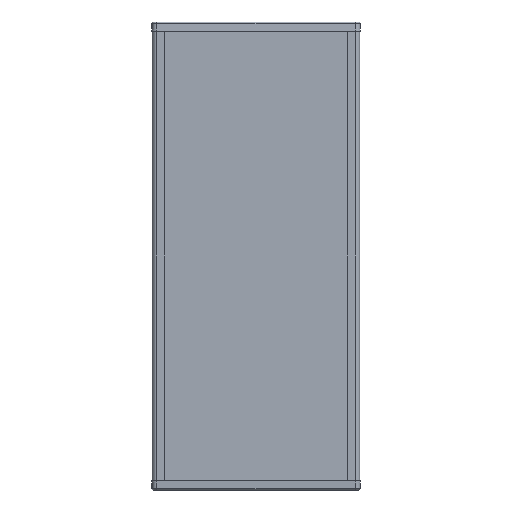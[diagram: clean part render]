
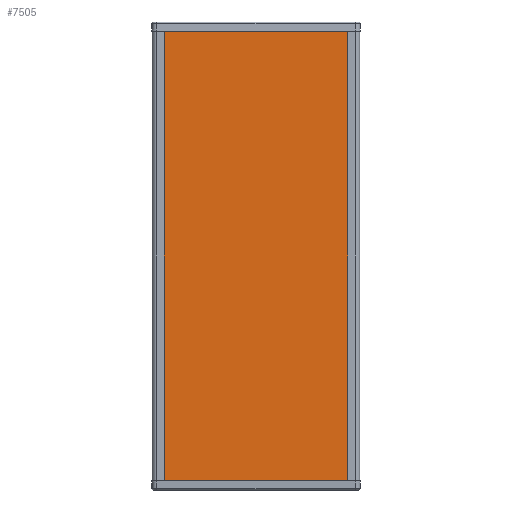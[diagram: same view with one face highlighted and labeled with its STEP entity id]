
A CAD part, front view. The second image highlights one B-rep face of the part: STEP entity #7505.
In plain terms, the highlighted planar face has unit normal (0, -1, 0) as drawn and (0, 1, 0) by its records, which use the part's own axes.
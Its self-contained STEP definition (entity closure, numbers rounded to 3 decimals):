
#441 = VERTEX_POINT ( 'NONE', #6292 ) ;
#818 = CARTESIAN_POINT ( 'NONE',  ( -195., 66.547, 0. ) ) ;
#833 = EDGE_CURVE ( 'NONE', #7346, #1905, #2875, .T. ) ;
#873 = LINE ( 'NONE', #6211, #7410 ) ;
#1042 = CARTESIAN_POINT ( 'NONE',  ( 16., 66.547, -500. ) ) ;
#1905 = VERTEX_POINT ( 'NONE', #818 ) ;
#1993 = CARTESIAN_POINT ( 'NONE',  ( -195., 66.547, -500. ) ) ;
#2875 = LINE ( 'NONE', #1993, #8393 ) ;
#3041 = CARTESIAN_POINT ( 'NONE',  ( -195., 66.547, -500. ) ) ;
#3453 = DIRECTION ( 'NONE',  ( 0., 1., 0. ) ) ;
#3495 = DIRECTION ( 'NONE',  ( -1., 0., 0. ) ) ;
#4047 = AXIS2_PLACEMENT_3D ( 'NONE', #11571, #3453, #7084 ) ;
#4344 = FACE_OUTER_BOUND ( 'NONE', #5091, .T. ) ;
#4779 = VERTEX_POINT ( 'NONE', #7298 ) ;
#4785 = DIRECTION ( 'NONE',  ( -1., 0., 0. ) ) ;
#5091 = EDGE_LOOP ( 'NONE', ( #10983, #6434, #5565, #5950 ) ) ;
#5565 = ORIENTED_EDGE ( 'NONE', *, *, #7127, .T. ) ;
#5950 = ORIENTED_EDGE ( 'NONE', *, *, #833, .T. ) ;
#6211 = CARTESIAN_POINT ( 'NONE',  ( 16., 66.547, -500. ) ) ;
#6235 = CARTESIAN_POINT ( 'NONE',  ( 16., 66.547, 0. ) ) ;
#6292 = CARTESIAN_POINT ( 'NONE',  ( 16., 66.547, -500. ) ) ;
#6434 = ORIENTED_EDGE ( 'NONE', *, *, #6540, .F. ) ;
#6540 = EDGE_CURVE ( 'NONE', #441, #4779, #873, .T. ) ;
#6950 = LINE ( 'NONE', #6235, #9044 ) ;
#7084 = DIRECTION ( 'NONE',  ( -1., 0., 0. ) ) ;
#7127 = EDGE_CURVE ( 'NONE', #441, #7346, #8347, .T. ) ;
#7298 = CARTESIAN_POINT ( 'NONE',  ( 16., 66.547, 0. ) ) ;
#7346 = VERTEX_POINT ( 'NONE', #3041 ) ;
#7410 = VECTOR ( 'NONE', #11594, 1000. ) ;
#7505 = ADVANCED_FACE ( 'NONE', ( #4344 ), #7981, .T. ) ;
#7859 = EDGE_CURVE ( 'NONE', #4779, #1905, #6950, .T. ) ;
#7981 = PLANE ( 'NONE',  #4047 ) ;
#8347 = LINE ( 'NONE', #1042, #8601 ) ;
#8393 = VECTOR ( 'NONE', #10222, 1000. ) ;
#8601 = VECTOR ( 'NONE', #4785, 1000. ) ;
#9044 = VECTOR ( 'NONE', #3495, 1000. ) ;
#10222 = DIRECTION ( 'NONE',  ( 0., 0., 1. ) ) ;
#10983 = ORIENTED_EDGE ( 'NONE', *, *, #7859, .F. ) ;
#11571 = CARTESIAN_POINT ( 'NONE',  ( 16., 66.547, -500. ) ) ;
#11594 = DIRECTION ( 'NONE',  ( 0., 0., 1. ) ) ;
